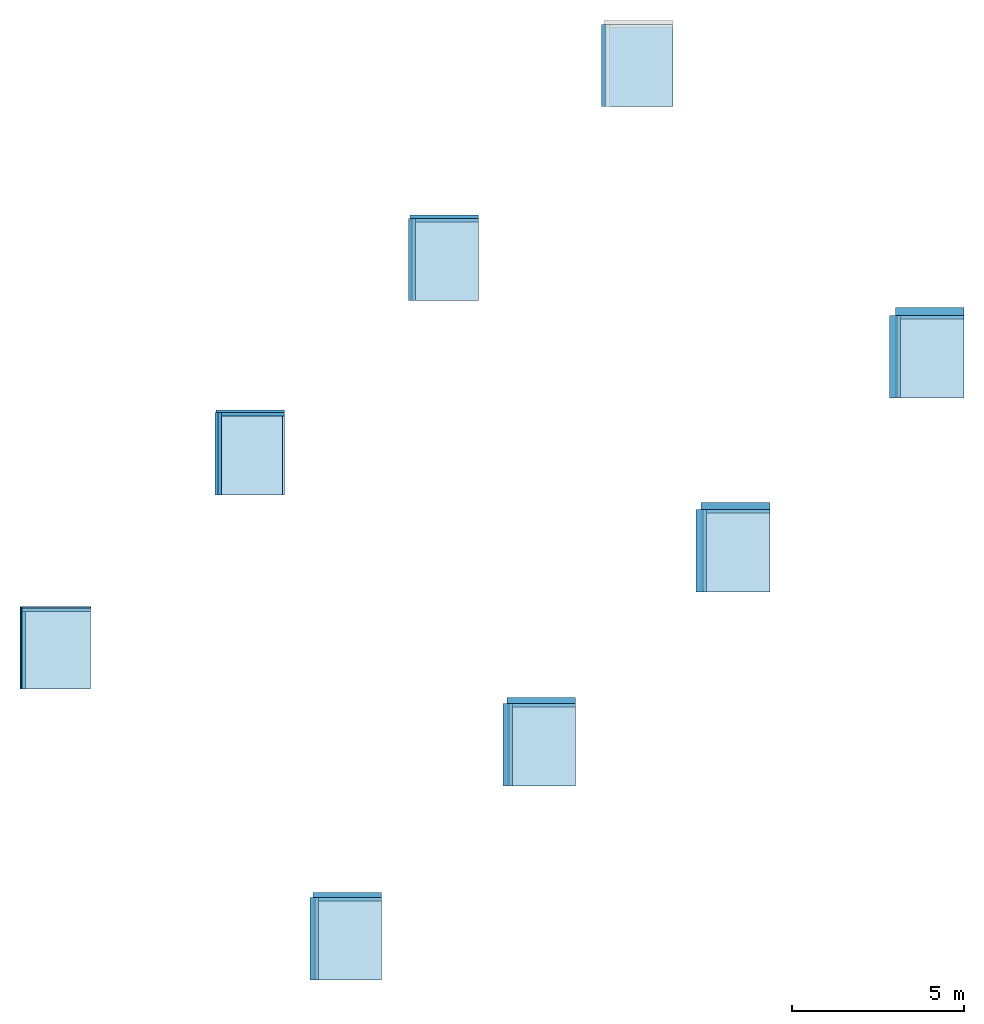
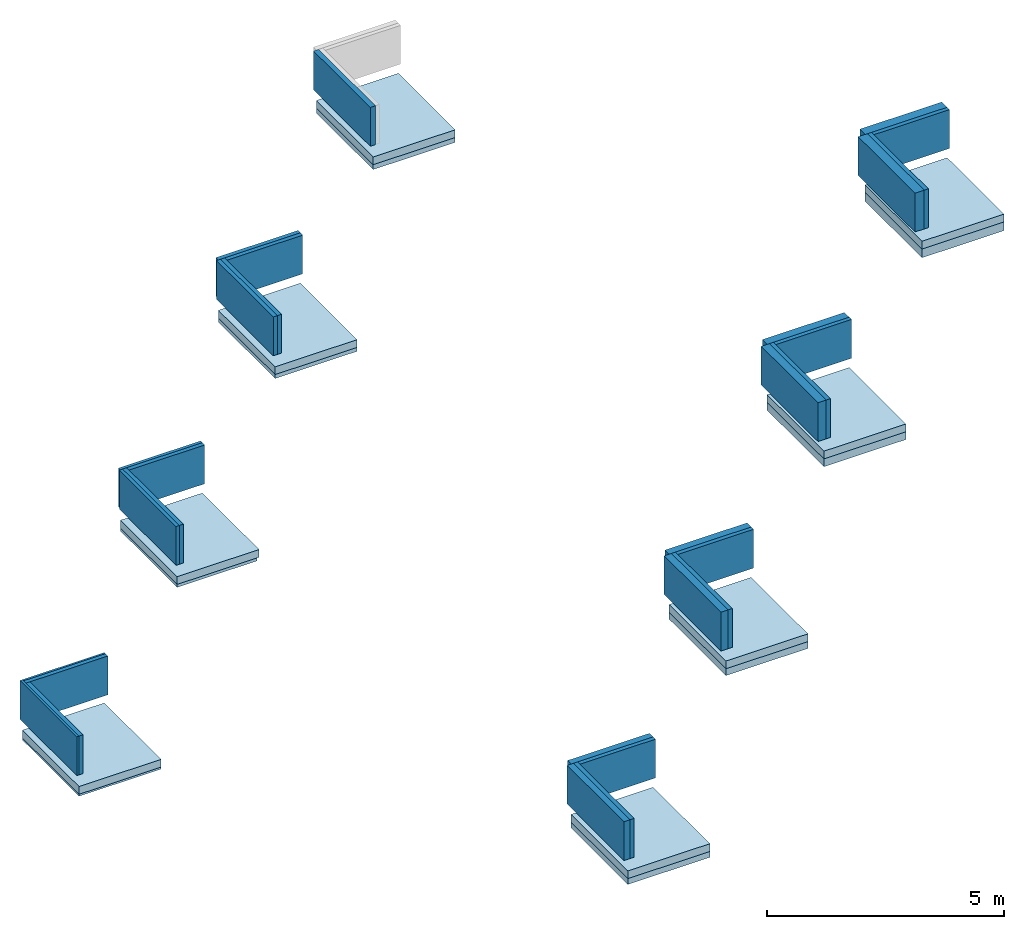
# One storey, part 1 of 2: 29 walls, 16 slabs.
"""IFC2X3 building model written with IfcOpenShell, lengths in millimetres."""

from ifc_helpers import new_model, entity, si_unit, converted_unit, derived_unit, direction, frame, frame_2d, origin, origin_2d_with_axis, place, context, subcontext, project, spatial, rectangle, extrude, material, layer, layer_set, layer_usage, type_object, element, save


model = new_model("IFC2X3")

# Units and contexts
model_context = context("Model", 3, precision=0.01, world=origin(), true_north=direction((6.12303176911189e-17, 1.0)))
context_of_model = context(None, 3, precision=0.01, world=origin(), true_north=direction((6.12303176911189e-17, 1.0)))
body_context = subcontext(model_context, "Body", "Model", "MODEL_VIEW")
ifc_project = project(units=[si_unit("LENGTHUNIT", "METRE", prefix="MILLI"), si_unit("AREAUNIT", "SQUARE_METRE"), si_unit("VOLUMEUNIT", "CUBIC_METRE"), converted_unit("PLANEANGLEUNIT", "DEGREE", entity("IfcRatioMeasure", 0.0174532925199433), si_unit("PLANEANGLEUNIT", "RADIAN"), dimensions=[0, 0, 0, 0, 0, 0, 0]), si_unit("MASSUNIT", "GRAM", prefix="KILO"), derived_unit("MASSDENSITYUNIT", [(si_unit("MASSUNIT", "GRAM", prefix="KILO"), 1), (si_unit("LENGTHUNIT", "METRE"), -3)]), derived_unit("MOMENTOFINERTIAUNIT", [(si_unit("LENGTHUNIT", "METRE"), 4)]), si_unit("TIMEUNIT", "SECOND"), si_unit("FREQUENCYUNIT", "HERTZ"), si_unit("THERMODYNAMICTEMPERATUREUNIT", "DEGREE_CELSIUS"), derived_unit("THERMALTRANSMITTANCEUNIT", [(si_unit("MASSUNIT", "GRAM", prefix="KILO"), 1), (si_unit("THERMODYNAMICTEMPERATUREUNIT", "KELVIN"), -1), (si_unit("TIMEUNIT", "SECOND"), -3)]), derived_unit("VOLUMETRICFLOWRATEUNIT", [(si_unit("LENGTHUNIT", "METRE"), 3), (si_unit("TIMEUNIT", "SECOND"), -1)]), si_unit("ELECTRICCURRENTUNIT", "AMPERE"), si_unit("ELECTRICVOLTAGEUNIT", "VOLT"), si_unit("POWERUNIT", "WATT"), si_unit("FORCEUNIT", "NEWTON", prefix="KILO"), si_unit("ILLUMINANCEUNIT", "LUX"), si_unit("LUMINOUSFLUXUNIT", "LUMEN"), si_unit("LUMINOUSINTENSITYUNIT", "CANDELA"), derived_unit("USERDEFINED", [(si_unit("MASSUNIT", "GRAM", prefix="KILO"), -1), (si_unit("LENGTHUNIT", "METRE"), -2), (si_unit("TIMEUNIT", "SECOND"), 3), (si_unit("LUMINOUSFLUXUNIT", "LUMEN"), 1)]), derived_unit("LINEARVELOCITYUNIT", [(si_unit("LENGTHUNIT", "METRE"), 1), (si_unit("TIMEUNIT", "SECOND"), -1)]), si_unit("PRESSUREUNIT", "PASCAL"), derived_unit("USERDEFINED", [(si_unit("LENGTHUNIT", "METRE"), -2), (si_unit("MASSUNIT", "GRAM", prefix="KILO"), 1), (si_unit("TIMEUNIT", "SECOND"), -2)]), derived_unit("LINEARFORCEUNIT", [(si_unit("MASSUNIT", "GRAM", prefix="KILO"), 1), (si_unit("LENGTHUNIT", "METRE"), 1), (si_unit("TIMEUNIT", "SECOND"), -2), (si_unit("LENGTHUNIT", "METRE"), -1)]), derived_unit("PLANARFORCEUNIT", [(si_unit("MASSUNIT", "GRAM", prefix="KILO"), 1), (si_unit("LENGTHUNIT", "METRE"), 1), (si_unit("TIMEUNIT", "SECOND"), -2), (si_unit("LENGTHUNIT", "METRE"), -2)])], contexts=[model_context, context_of_model])

# Site, building, storey
site_placement = place(None, origin())
site = spatial("IfcSite", under=ifc_project, at=site_placement, Name="Default", CompositionType="ELEMENT")
building_placement = place(site_placement, origin())
building = spatial("IfcBuilding", under=site, at=building_placement, CompositionType="ELEMENT")
storey_placement = place(building_placement, origin())
storey = spatial("IfcBuildingStorey", under=building, at=storey_placement, Name="00 begane grond", CompositionType="ELEMENT", Elevation=-2.77069864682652e-11)

# Slabs
ifc_material_1 = material(Name="Heraklith® I Tektalan A2 - Steenwol")
ifc_layer_1 = layer(ifc_material_1, 40.0)
ifc_material_2 = material(Name="Heraklith® I Tektalan A2 - Houtwollaag - 1000x600mm")
ifc_layer_2 = layer(ifc_material_2, 10.0)
ifc_layer_set_1 = layer_set([ifc_layer_1, ifc_layer_2], Name="Floor:NLRS_23_FL_Heraklith Tektalan A2 SmartTec 50x1000x600mm")
ifc_layer_usage_1 = layer_usage(ifc_layer_set_1, "AXIS3", "POSITIVE", 0.0)
slab_type_1 = type_object("IfcSlabType", Name="Floor:NLRS_23_FL_Heraklith Tektalan A2 SmartTec 50x1000x600mm", PredefinedType="FLOOR", material=ifc_layer_set_1)
slab_1_placement = place(storey_placement, origin())
element("IfcSlab", 1, at=slab_1_placement, inside=storey, type_object=slab_type_1, material=ifc_layer_usage_1, Name="Floor:NLRS_23_FL_Heraklith Tektalan A2 SmartTec 50x1000x600mm", ObjectType="Floor:NLRS_23_FL_Heraklith Tektalan A2 SmartTec 50x1000x600mm", PredefinedType="FLOOR", context=body_context, shape_type="SweptSolid", body=[
    extrude(rectangle(XDim=2400.0, YDim=2000.0, at=frame_2d((1.13686837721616e-13, 0.0), x_axis=(1.0, 0.0))), frame((1000.0, 1200.0, -500.0), z_axis=(0.0, 0.0, -1.0), x_axis=(0.0, 1.0, 0.0)), (0.0, 0.0, 1.0), 50.0),
])
ifc_layer_3 = layer(ifc_material_1, 65.0)
ifc_layer_4 = layer(ifc_material_2, 10.0)
ifc_layer_set_2 = layer_set([ifc_layer_3, ifc_layer_4], Name="Floor:NLRS_23_FL_Heraklith Tektalan A2 SmartTec 75x1000x600mm")
ifc_layer_usage_2 = layer_usage(ifc_layer_set_2, "AXIS3", "POSITIVE", 0.0)
slab_type_2 = type_object("IfcSlabType", Name="Floor:NLRS_23_FL_Heraklith Tektalan A2 SmartTec 75x1000x600mm", PredefinedType="FLOOR", material=ifc_layer_set_2)
slab_2_placement = place(storey_placement, origin())
element("IfcSlab", 2, at=slab_2_placement, inside=storey, type_object=slab_type_2, material=ifc_layer_usage_2, Name="Floor:NLRS_23_FL_Heraklith Tektalan A2 SmartTec 75x1000x600mm", ObjectType="Floor:NLRS_23_FL_Heraklith Tektalan A2 SmartTec 75x1000x600mm", PredefinedType="FLOOR", context=body_context, shape_type="SweptSolid", body=[
    extrude(rectangle(XDim=2400.0, YDim=1944.99999999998, at=frame_2d((-4.54747350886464e-13, 0.0), x_axis=(1.0, 0.0))), frame((6629.99191538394, 6856.85424949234, -500.0), z_axis=(0.0, 0.0, -1.0), x_axis=(0.0, 1.0, 0.0)), (0.0, 0.0, 1.0), 75.0),
])
ifc_layer_5 = layer(ifc_material_1, 90.0)
ifc_layer_6 = layer(ifc_material_2, 10.0)
ifc_layer_set_3 = layer_set([ifc_layer_5, ifc_layer_6], Name="Floor:NLRS_23_FL_Heraklith Tektalan A2 SmartTec 100x1000x600mm")
ifc_layer_usage_3 = layer_usage(ifc_layer_set_3, "AXIS3", "POSITIVE", 0.0)
slab_type_3 = type_object("IfcSlabType", Name="Floor:NLRS_23_FL_Heraklith Tektalan A2 SmartTec 100x1000x600mm", PredefinedType="FLOOR", material=ifc_layer_set_3)
slab_3_placement = place(storey_placement, origin())
element("IfcSlab", 3, at=slab_3_placement, inside=storey, type_object=slab_type_3, material=ifc_layer_usage_3, Name="Floor:NLRS_23_FL_Heraklith Tektalan A2 SmartTec 100x1000x600mm", ObjectType="Floor:NLRS_23_FL_Heraklith Tektalan A2 SmartTec 100x1000x600mm", PredefinedType="FLOOR", context=body_context, shape_type="SweptSolid", body=[
    extrude(rectangle(XDim=2400.0, YDim=2000.0, at=origin_2d_with_axis()), frame((12313.7084989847, 12513.7084989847, -500.0), z_axis=(0.0, 0.0, -1.0), x_axis=(0.0, 1.0, 0.0)), (0.0, 0.0, 1.0), 100.0),
])
ifc_layer_7 = layer(ifc_material_1, 115.0)
ifc_layer_8 = layer(ifc_material_2, 10.0)
ifc_layer_set_4 = layer_set([ifc_layer_7, ifc_layer_8], Name="Floor:NLRS_23_FL_Heraklith Tektalan A2 SmartTec 125x1000x600mm")
ifc_layer_usage_4 = layer_usage(ifc_layer_set_4, "AXIS3", "POSITIVE", 0.0)
slab_type_4 = type_object("IfcSlabType", Name="Floor:NLRS_23_FL_Heraklith Tektalan A2 SmartTec 125x1000x600mm", PredefinedType="FLOOR", material=ifc_layer_set_4)
slab_4_placement = place(storey_placement, origin())
element("IfcSlab", 4, at=slab_4_placement, inside=storey, type_object=slab_type_4, material=ifc_layer_usage_4, Name="Floor:NLRS_23_FL_Heraklith Tektalan A2 SmartTec 125x1000x600mm", ObjectType="Floor:NLRS_23_FL_Heraklith Tektalan A2 SmartTec 125x1000x600mm", PredefinedType="FLOOR", context=body_context, shape_type="SweptSolid", body=[
    extrude(rectangle(XDim=2400.0, YDim=2000.0, at=frame_2d((0.0, -1.08002495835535e-12), x_axis=(1.0, 0.0))), frame((17970.5627484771, 18170.5627484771, -500.0), z_axis=(0.0, 0.0, -1.0), x_axis=(0.0, 1.0, 0.0)), (0.0, 0.0, 1.0), 125.0),
])
ifc_layer_9 = layer(ifc_material_1, 140.0)
ifc_layer_10 = layer(ifc_material_2, 10.0)
ifc_layer_set_5 = layer_set([ifc_layer_9, ifc_layer_10], Name="Floor:NLRS_23_FL_Heraklith Tektalan A2 SmartTec 150x1000x600mm")
ifc_layer_usage_5 = layer_usage(ifc_layer_set_5, "AXIS3", "POSITIVE", 0.0)
slab_type_5 = type_object("IfcSlabType", Name="Floor:NLRS_23_FL_Heraklith Tektalan A2 SmartTec 150x1000x600mm", PredefinedType="FLOOR", material=ifc_layer_set_5)
slab_5_placement = place(storey_placement, origin())
element("IfcSlab", 5, at=slab_5_placement, inside=storey, type_object=slab_type_5, material=ifc_layer_usage_5, Name="Floor:NLRS_23_FL_Heraklith Tektalan A2 SmartTec 150x1000x600mm", ObjectType="Floor:NLRS_23_FL_Heraklith Tektalan A2 SmartTec 150x1000x600mm", PredefinedType="FLOOR", context=body_context, shape_type="SweptSolid", body=[
    extrude(rectangle(XDim=2400.0, YDim=2000.0, at=frame_2d((0.0, 1.08002495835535e-12), x_axis=(1.0, 0.0))), frame((9485.28137423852, -7285.28137423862, -500.0), z_axis=(0.0, 0.0, -1.0), x_axis=(0.0, 1.0, 0.0)), (0.0, 0.0, 1.0), 150.0),
])
ifc_layer_11 = layer(ifc_material_1, 165.0)
ifc_layer_12 = layer(ifc_material_2, 10.0)
ifc_layer_set_6 = layer_set([ifc_layer_11, ifc_layer_12], Name="Floor:NLRS_23_FL_Heraklith Tektalan A2 SmartTec 175x1000x600mm")
ifc_layer_usage_6 = layer_usage(ifc_layer_set_6, "AXIS3", "POSITIVE", 0.0)
slab_type_6 = type_object("IfcSlabType", Name="Floor:NLRS_23_FL_Heraklith Tektalan A2 SmartTec 175x1000x600mm", PredefinedType="FLOOR", material=ifc_layer_set_6)
slab_6_placement = place(storey_placement, origin())
element("IfcSlab", 6, at=slab_6_placement, inside=storey, type_object=slab_type_6, material=ifc_layer_usage_6, Name="Floor:NLRS_23_FL_Heraklith Tektalan A2 SmartTec 175x1000x600mm", ObjectType="Floor:NLRS_23_FL_Heraklith Tektalan A2 SmartTec 175x1000x600mm", PredefinedType="FLOOR", context=body_context, shape_type="SweptSolid", body=[
    extrude(rectangle(XDim=2400.0, YDim=2000.0, at=frame_2d((-1.13686837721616e-13, 2.1600499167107e-12), x_axis=(1.0, 0.0))), frame((15142.1356237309, -1628.42712474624, -500.0), z_axis=(0.0, 0.0, -1.0), x_axis=(0.0, 1.0, 0.0)), (0.0, 0.0, 1.0), 175.0),
])
ifc_layer_13 = layer(ifc_material_1, 190.0)
ifc_layer_14 = layer(ifc_material_2, 10.0)
ifc_layer_set_7 = layer_set([ifc_layer_13, ifc_layer_14], Name="Floor:NLRS_23_FL_Heraklith Tektalan A2 SmartTec 200x1000x600mm")
ifc_layer_usage_7 = layer_usage(ifc_layer_set_7, "AXIS3", "POSITIVE", 0.0)
slab_type_7 = type_object("IfcSlabType", Name="Floor:NLRS_23_FL_Heraklith Tektalan A2 SmartTec 200x1000x600mm", PredefinedType="FLOOR", material=ifc_layer_set_7)
slab_7_placement = place(storey_placement, origin())
element("IfcSlab", 7, at=slab_7_placement, inside=storey, type_object=slab_type_7, material=ifc_layer_usage_7, Name="Floor:NLRS_23_FL_Heraklith Tektalan A2 SmartTec 200x1000x600mm", ObjectType="Floor:NLRS_23_FL_Heraklith Tektalan A2 SmartTec 200x1000x600mm", PredefinedType="FLOOR", context=body_context, shape_type="SweptSolid", body=[
    extrude(rectangle(XDim=2400.0, YDim=2000.0, at=frame_2d((0.0, -2.1600499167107e-12), x_axis=(1.0, 0.0))), frame((20798.9898732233, 4028.42712474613, -500.0), z_axis=(0.0, 0.0, -1.0), x_axis=(0.0, 1.0, 0.0)), (0.0, 0.0, 1.0), 200.0),
])
ifc_layer_15 = layer(ifc_material_1, 215.0)
ifc_layer_16 = layer(ifc_material_2, 10.0)
ifc_layer_set_8 = layer_set([ifc_layer_15, ifc_layer_16], Name="Floor:NLRS_23_FL_Heraklith Tektalan A2 SmartTec 225x1000x600mm")
ifc_layer_usage_8 = layer_usage(ifc_layer_set_8, "AXIS3", "POSITIVE", 0.0)
slab_type_8 = type_object("IfcSlabType", Name="Floor:NLRS_23_FL_Heraklith Tektalan A2 SmartTec 225x1000x600mm", PredefinedType="FLOOR", material=ifc_layer_set_8)
slab_8_placement = place(storey_placement, origin())
element("IfcSlab", 8, at=slab_8_placement, inside=storey, type_object=slab_type_8, material=ifc_layer_usage_8, Name="Floor:NLRS_23_FL_Heraklith Tektalan A2 SmartTec 225x1000x600mm", ObjectType="Floor:NLRS_23_FL_Heraklith Tektalan A2 SmartTec 225x1000x600mm", PredefinedType="FLOOR", context=body_context, shape_type="SweptSolid", body=[
    extrude(rectangle(XDim=2400.0, YDim=2000.0, at=frame_2d((0.0, -2.1600499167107e-12), x_axis=(1.0, 0.0))), frame((26455.8441227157, 9685.28137423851, -500.0), z_axis=(0.0, 0.0, -1.0), x_axis=(0.0, 1.0, 0.0)), (0.0, 0.0, 1.0), 225.0),
])
ifc_material_3 = material(Name="Concrete, Precast Panels")
ifc_layer_17 = layer(ifc_material_3, 200.0)
ifc_layer_set_9 = layer_set([ifc_layer_17], Name="Floor:Generic 200mm")
ifc_layer_usage_9 = layer_usage(ifc_layer_set_9, "AXIS3", "POSITIVE", 0.0)
slab_type_9 = type_object("IfcSlabType", Name="Floor:Generic 200mm", PredefinedType="FLOOR", material=ifc_layer_set_9)
slab_9_placement = place(storey_placement, origin())
element("IfcSlab", 9, at=slab_9_placement, inside=storey, type_object=slab_type_9, material=ifc_layer_usage_9, Name="Floor:Generic 200mm", ObjectType="Floor:Generic 200mm", PredefinedType="FLOOR", context=body_context, shape_type="SweptSolid", body=[
    extrude(rectangle(XDim=2400.0, YDim=2000.0, at=origin_2d_with_axis()), frame((1000.0, 1200.0, -300.0), z_axis=(0.0, 0.0, -1.0), x_axis=(0.0, 1.0, 0.0)), (0.0, 0.0, 1.0), 200.0),
])
ifc_layer_usage_10 = layer_usage(ifc_layer_set_9, "AXIS3", "POSITIVE", 0.0)
slab_type_10 = type_object("IfcSlabType", Name="Floor:Generic 200mm", PredefinedType="FLOOR", material=ifc_layer_set_9)
slab_10_placement = place(storey_placement, origin())
element("IfcSlab", 10, at=slab_10_placement, inside=storey, type_object=slab_type_10, material=ifc_layer_usage_10, Name="Floor:Generic 200mm", ObjectType="Floor:Generic 200mm", PredefinedType="FLOOR", context=body_context, shape_type="SweptSolid", body=[
    extrude(rectangle(XDim=2400.0, YDim=2000.0, at=origin_2d_with_axis()), frame((6656.85424949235, 6856.85424949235, -300.0), z_axis=(0.0, 0.0, -1.0), x_axis=(0.0, 1.0, 0.0)), (0.0, 0.0, 1.0), 200.0),
])
ifc_layer_usage_11 = layer_usage(ifc_layer_set_9, "AXIS3", "POSITIVE", 0.0)
slab_type_11 = type_object("IfcSlabType", Name="Floor:Generic 200mm", PredefinedType="FLOOR", material=ifc_layer_set_9)
slab_11_placement = place(storey_placement, origin())
element("IfcSlab", 11, at=slab_11_placement, inside=storey, type_object=slab_type_11, material=ifc_layer_usage_11, Name="Floor:Generic 200mm", ObjectType="Floor:Generic 200mm", PredefinedType="FLOOR", context=body_context, shape_type="SweptSolid", body=[
    extrude(rectangle(XDim=2400.0, YDim=2000.0, at=origin_2d_with_axis()), frame((12313.7084989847, 12513.7084989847, -300.0), z_axis=(0.0, 0.0, -1.0), x_axis=(0.0, 1.0, 0.0)), (0.0, 0.0, 1.0), 200.0),
])
ifc_layer_usage_12 = layer_usage(ifc_layer_set_9, "AXIS3", "POSITIVE", 0.0)
slab_type_12 = type_object("IfcSlabType", Name="Floor:Generic 200mm", PredefinedType="FLOOR", material=ifc_layer_set_9)
slab_12_placement = place(storey_placement, origin())
element("IfcSlab", 12, at=slab_12_placement, inside=storey, type_object=slab_type_12, material=ifc_layer_usage_12, Name="Floor:Generic 200mm", ObjectType="Floor:Generic 200mm", PredefinedType="FLOOR", context=body_context, shape_type="SweptSolid", body=[
    extrude(rectangle(XDim=2400.0, YDim=2000.0, at=origin_2d_with_axis()), frame((17970.5627484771, 18170.5627484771, -300.0), z_axis=(0.0, 0.0, -1.0), x_axis=(0.0, 1.0, 0.0)), (0.0, 0.0, 1.0), 200.0),
])
ifc_layer_usage_13 = layer_usage(ifc_layer_set_9, "AXIS3", "POSITIVE", 0.0)
slab_type_13 = type_object("IfcSlabType", Name="Floor:Generic 200mm", PredefinedType="FLOOR", material=ifc_layer_set_9)
slab_13_placement = place(storey_placement, origin())
element("IfcSlab", 13, at=slab_13_placement, inside=storey, type_object=slab_type_13, material=ifc_layer_usage_13, Name="Floor:Generic 200mm", ObjectType="Floor:Generic 200mm", PredefinedType="FLOOR", context=body_context, shape_type="SweptSolid", body=[
    extrude(rectangle(XDim=2400.0, YDim=2000.0, at=frame_2d((0.0, -2.1600499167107e-12), x_axis=(1.0, 0.0))), frame((26455.8441227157, 9685.28137423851, -300.0), z_axis=(0.0, 0.0, -1.0), x_axis=(0.0, 1.0, 0.0)), (0.0, 0.0, 1.0), 200.0),
])
ifc_layer_usage_14 = layer_usage(ifc_layer_set_9, "AXIS3", "POSITIVE", 0.0)
slab_type_14 = type_object("IfcSlabType", Name="Floor:Generic 200mm", PredefinedType="FLOOR", material=ifc_layer_set_9)
slab_14_placement = place(storey_placement, origin())
element("IfcSlab", 14, at=slab_14_placement, inside=storey, type_object=slab_type_14, material=ifc_layer_usage_14, Name="Floor:Generic 200mm", ObjectType="Floor:Generic 200mm", PredefinedType="FLOOR", context=body_context, shape_type="SweptSolid", body=[
    extrude(rectangle(XDim=2400.0, YDim=2000.0, at=frame_2d((0.0, -2.1600499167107e-12), x_axis=(1.0, 0.0))), frame((20798.9898732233, 4028.42712474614, -300.0), z_axis=(0.0, 0.0, -1.0), x_axis=(0.0, 1.0, 0.0)), (0.0, 0.0, 1.0), 200.0),
])
ifc_layer_usage_15 = layer_usage(ifc_layer_set_9, "AXIS3", "POSITIVE", 0.0)
slab_type_15 = type_object("IfcSlabType", Name="Floor:Generic 200mm", PredefinedType="FLOOR", material=ifc_layer_set_9)
slab_15_placement = place(storey_placement, origin())
element("IfcSlab", 15, at=slab_15_placement, inside=storey, type_object=slab_type_15, material=ifc_layer_usage_15, Name="Floor:Generic 200mm", ObjectType="Floor:Generic 200mm", PredefinedType="FLOOR", context=body_context, shape_type="SweptSolid", body=[
    extrude(rectangle(XDim=2400.0, YDim=2000.0, at=frame_2d((0.0, 2.1600499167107e-12), x_axis=(1.0, 0.0))), frame((15142.1356237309, -1628.42712474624, -300.0), z_axis=(0.0, 0.0, -1.0), x_axis=(0.0, 1.0, 0.0)), (0.0, 0.0, 1.0), 200.0),
])
ifc_layer_usage_16 = layer_usage(ifc_layer_set_9, "AXIS3", "POSITIVE", 0.0)
slab_type_16 = type_object("IfcSlabType", Name="Floor:Generic 200mm", PredefinedType="FLOOR", material=ifc_layer_set_9)
slab_16_placement = place(storey_placement, origin())
element("IfcSlab", 16, at=slab_16_placement, inside=storey, type_object=slab_type_16, material=ifc_layer_usage_16, Name="Floor:Generic 200mm", ObjectType="Floor:Generic 200mm", PredefinedType="FLOOR", context=body_context, shape_type="SweptSolid", body=[
    extrude(rectangle(XDim=2400.0, YDim=2000.0, at=origin_2d_with_axis()), frame((9485.28137423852, -7285.28137423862, -300.0), z_axis=(0.0, 0.0, -1.0), x_axis=(0.0, 1.0, 0.0)), (0.0, 0.0, 1.0), 200.0),
])

# Walls
ifc_layer_18 = layer(ifc_material_1, 40.0)
ifc_layer_19 = layer(ifc_material_2, 10.0)
ifc_layer_set_10 = layer_set([ifc_layer_18, ifc_layer_19], Name="Basic Wall:NLRS_41_WA_Heraklith Tektalan A2 SmartTec 50x1000x600mm")
ifc_layer_usage_17 = layer_usage(ifc_layer_set_10, "AXIS2", "POSITIVE", -25.0)
wall_type_1 = type_object("IfcWallType", Name="Basic Wall:NLRS_41_WA_Heraklith Tektalan A2 SmartTec 50x1000x600mm", PredefinedType="STANDARD", material=ifc_layer_set_10)
wall_1_placement = place(storey_placement, frame((0.0, 2375.0, 0.0)))
element("IfcWallStandardCase", 17, at=wall_1_placement, inside=storey, type_object=wall_type_1, material=ifc_layer_usage_17, Name="Basic Wall:NLRS_41_WA_Heraklith Tektalan A2 SmartTec 50x1000x600mm", ObjectType="Basic Wall:NLRS_41_WA_Heraklith Tektalan A2 SmartTec 50x1000x600mm", context=body_context, shape_type="SweptSolid", body=[
    extrude(rectangle(XDim=1999.99999999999, YDim=50.0, at=frame_2d((999.999999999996, 0.0), x_axis=(-1.0, 0.0))), origin(), (0.0, 0.0, 1.0), 1000.00000000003),
])
ifc_layer_20 = layer(ifc_material_1, 40.0)
ifc_layer_21 = layer(ifc_material_2, 15.0)
ifc_layer_set_11 = layer_set([ifc_layer_20, ifc_layer_21], Name="Basic Wall:NLRS_42_WA_Heraklith Tektalan A2 SmartTec 50x1000x600mm")
ifc_layer_usage_18 = layer_usage(ifc_layer_set_11, "AXIS2", "POSITIVE", -27.5)
wall_type_2 = type_object("IfcWallType", Name="Basic Wall:NLRS_42_WA_Heraklith Tektalan A2 SmartTec 50x1000x600mm", PredefinedType="STANDARD", material=ifc_layer_set_11)
wall_2_placement = place(storey_placement, frame((-27.500000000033, 0.0, 0.0), z_axis=(0.0, 0.0, 1.0), x_axis=(0.0, 1.0, 0.0)))
element("IfcWallStandardCase", 18, at=wall_2_placement, inside=storey, type_object=wall_type_2, material=ifc_layer_usage_18, Name="Basic Wall:NLRS_42_WA_Heraklith Tektalan A2 SmartTec 50x1000x600mm", ObjectType="Basic Wall:NLRS_42_WA_Heraklith Tektalan A2 SmartTec 50x1000x600mm", context=body_context, shape_type="SweptSolid", body=[
    extrude(rectangle(XDim=2400.0, YDim=55.0, at=frame_2d((1200.0, 3.5527136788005e-15), x_axis=(-1.0, 0.0))), origin(), (0.0, 0.0, 1.0), 1000.00000000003),
])
ifc_layer_22 = layer(ifc_material_1, 65.0)
ifc_layer_23 = layer(ifc_material_2, 10.0)
ifc_layer_set_12 = layer_set([ifc_layer_22, ifc_layer_23], Name="Basic Wall:NLRS_41_WA_Heraklith Tektalan A2 SmartTec 75x1000x600mm")
ifc_layer_usage_19 = layer_usage(ifc_layer_set_12, "AXIS2", "POSITIVE", -37.5)
wall_type_3 = type_object("IfcWallType", Name="Basic Wall:NLRS_41_WA_Heraklith Tektalan A2 SmartTec 75x1000x600mm", PredefinedType="STANDARD", material=ifc_layer_set_12)
wall_3_placement = place(storey_placement, frame((5656.85424949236, 8094.35424949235, 0.0)))
element("IfcWallStandardCase", 19, at=wall_3_placement, inside=storey, type_object=wall_type_3, material=ifc_layer_usage_19, Name="Basic Wall:NLRS_41_WA_Heraklith Tektalan A2 SmartTec 75x1000x600mm", ObjectType="Basic Wall:NLRS_41_WA_Heraklith Tektalan A2 SmartTec 75x1000x600mm", context=body_context, shape_type="SweptSolid", body=[
    extrude(rectangle(XDim=1999.99999999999, YDim=75.0000000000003, at=frame_2d((999.999999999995, 1.35003119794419e-13), x_axis=(-1.0, 0.0))), origin(), (0.0, 0.0, 1.0), 1000.00000000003),
])
ifc_layer_24 = layer(ifc_material_1, 65.0)
ifc_layer_25 = layer(ifc_material_2, 15.0)
ifc_layer_set_13 = layer_set([ifc_layer_24, ifc_layer_25], Name="Basic Wall:NLRS_42_WA_Heraklith Tektalan A2 SmartTec 75x1000x600mm")
ifc_layer_usage_20 = layer_usage(ifc_layer_set_13, "AXIS2", "POSITIVE", -40.0)
wall_type_4 = type_object("IfcWallType", Name="Basic Wall:NLRS_42_WA_Heraklith Tektalan A2 SmartTec 75x1000x600mm", PredefinedType="STANDARD", material=ifc_layer_set_13)
wall_4_placement = place(storey_placement, frame((5671.85424949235, 5656.85424949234, 0.0), z_axis=(0.0, 0.0, 1.0), x_axis=(0.0, 1.0, 0.0)))
element("IfcWallStandardCase", 20, at=wall_4_placement, inside=storey, type_object=wall_type_4, material=ifc_layer_usage_20, Name="Basic Wall:NLRS_42_WA_Heraklith Tektalan A2 SmartTec 75x1000x600mm", ObjectType="Basic Wall:NLRS_42_WA_Heraklith Tektalan A2 SmartTec 75x1000x600mm", context=body_context, shape_type="SweptSolid", body=[
    extrude(rectangle(XDim=2400.0, YDim=79.9999999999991, at=frame_2d((1200.0, -2.1316282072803e-13), x_axis=(-1.0, 0.0))), origin(), (0.0, 0.0, 1.0), 1000.00000000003),
])
ifc_layer_26 = layer(ifc_material_1, 90.0)
ifc_layer_27 = layer(ifc_material_2, 10.0)
ifc_layer_set_14 = layer_set([ifc_layer_26, ifc_layer_27], Name="Basic Wall:NLRS_41_WA_Heraklith Tektalan A2 SmartTec 100x1000x600mm")
ifc_layer_usage_21 = layer_usage(ifc_layer_set_14, "AXIS2", "POSITIVE", -50.0)
wall_type_5 = type_object("IfcWallType", Name="Basic Wall:NLRS_41_WA_Heraklith Tektalan A2 SmartTec 100x1000x600mm", PredefinedType="STANDARD", material=ifc_layer_set_14)
wall_5_placement = place(storey_placement, frame((11313.7084989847, 13763.7084989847, 0.0)))
element("IfcWallStandardCase", 21, at=wall_5_placement, inside=storey, type_object=wall_type_5, material=ifc_layer_usage_21, Name="Basic Wall:NLRS_41_WA_Heraklith Tektalan A2 SmartTec 100x1000x600mm", ObjectType="Basic Wall:NLRS_41_WA_Heraklith Tektalan A2 SmartTec 100x1000x600mm", context=body_context, shape_type="SweptSolid", body=[
    extrude(rectangle(XDim=1999.99999999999, YDim=99.9999999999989, at=frame_2d((999.999999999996, 6.78568312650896e-13), x_axis=(-1.0, 0.0))), origin(), (0.0, 0.0, 1.0), 1000.00000000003),
])
ifc_layer_28 = layer(ifc_material_1, 90.0)
ifc_layer_29 = layer(ifc_material_2, 10.0)
ifc_layer_set_15 = layer_set([ifc_layer_28, ifc_layer_29], Name="Basic Wall:NLRS_42_WA_Heraklith Tektalan A2 SmartTec 100x1000x600mm")
ifc_layer_usage_22 = layer_usage(ifc_layer_set_15, "AXIS2", "POSITIVE", -50.0)
wall_type_6 = type_object("IfcWallType", Name="Basic Wall:NLRS_42_WA_Heraklith Tektalan A2 SmartTec 100x1000x600mm", PredefinedType="STANDARD", material=ifc_layer_set_15)
wall_6_placement = place(storey_placement, frame((11318.7084989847, 11313.7084989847, 0.0), z_axis=(0.0, 0.0, 1.0), x_axis=(0.0, 1.0, 0.0)))
element("IfcWallStandardCase", 22, at=wall_6_placement, inside=storey, type_object=wall_type_6, material=ifc_layer_usage_22, Name="Basic Wall:NLRS_42_WA_Heraklith Tektalan A2 SmartTec 100x1000x600mm", ObjectType="Basic Wall:NLRS_42_WA_Heraklith Tektalan A2 SmartTec 100x1000x600mm", context=body_context, shape_type="SweptSolid", body=[
    extrude(rectangle(XDim=2400.0, YDim=99.9999999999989, at=frame_2d((1200.0, -2.1316282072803e-13), x_axis=(-1.0, 0.0))), origin(), (0.0, 0.0, 1.0), 1000.00000000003),
])
ifc_layer_30 = layer(ifc_material_1, 115.0)
ifc_layer_31 = layer(ifc_material_2, 10.0)
ifc_layer_set_16 = layer_set([ifc_layer_30, ifc_layer_31], Name="Basic Wall:NLRS_42_WA_Heraklith Tektalan A2 SmartTec 125x1000x600mm")
ifc_layer_usage_23 = layer_usage(ifc_layer_set_16, "AXIS2", "POSITIVE", -62.5)
wall_type_7 = type_object("IfcWallType", Name="Basic Wall:NLRS_42_WA_Heraklith Tektalan A2 SmartTec 125x1000x600mm", PredefinedType="STANDARD", material=ifc_layer_set_16)
wall_7_placement = place(storey_placement, frame((16963.0627484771, 16970.5627484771, 0.0), z_axis=(0.0, 0.0, 1.0), x_axis=(0.0, 1.0, 0.0)))
element("IfcWallStandardCase", 23, at=wall_7_placement, inside=storey, type_object=wall_type_7, material=ifc_layer_usage_23, Name="Basic Wall:NLRS_42_WA_Heraklith Tektalan A2 SmartTec 125x1000x600mm", ObjectType="Basic Wall:NLRS_42_WA_Heraklith Tektalan A2 SmartTec 125x1000x600mm", context=body_context, shape_type="SweptSolid", body=[
    extrude(rectangle(XDim=2400.0, YDim=125.000000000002, at=frame_2d((1200.0, -2.16715534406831e-13), x_axis=(-1.0, 0.0))), origin(), (0.0, 0.0, 1.0), 1000.00000000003),
])
ifc_layer_32 = layer(ifc_material_1, 140.0)
ifc_layer_33 = layer(ifc_material_2, 10.0)
ifc_layer_set_17 = layer_set([ifc_layer_32, ifc_layer_33], Name="Basic Wall:NLRS_41_WA_Heraklith Tektalan A2 SmartTec 150x1000x600mm")
ifc_layer_usage_24 = layer_usage(ifc_layer_set_17, "AXIS2", "POSITIVE", -75.0)
wall_type_8 = type_object("IfcWallType", Name="Basic Wall:NLRS_41_WA_Heraklith Tektalan A2 SmartTec 150x1000x600mm", PredefinedType="STANDARD", material=ifc_layer_set_17)
wall_8_placement = place(storey_placement, frame((8485.28137423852, -6010.28137423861, 0.0)))
element("IfcWallStandardCase", 24, at=wall_8_placement, inside=storey, type_object=wall_type_8, material=ifc_layer_usage_24, Name="Basic Wall:NLRS_41_WA_Heraklith Tektalan A2 SmartTec 150x1000x600mm", ObjectType="Basic Wall:NLRS_41_WA_Heraklith Tektalan A2 SmartTec 150x1000x600mm", context=body_context, shape_type="SweptSolid", body=[
    extrude(rectangle(XDim=1999.99999999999, YDim=150.000000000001, at=frame_2d((999.999999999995, 1.35003119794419e-13), x_axis=(-1.0, 0.0))), origin(), (0.0, 0.0, 1.0), 1000.00000000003),
])
ifc_layer_34 = layer(ifc_material_1, 140.0)
ifc_layer_35 = layer(ifc_material_2, 10.0)
ifc_layer_set_18 = layer_set([ifc_layer_34, ifc_layer_35], Name="Basic Wall:NLRS_42_WA_Heraklith Tektalan A2 SmartTec 150x1000x600mm")
ifc_layer_usage_25 = layer_usage(ifc_layer_set_18, "AXIS2", "POSITIVE", -75.0)
wall_type_9 = type_object("IfcWallType", Name="Basic Wall:NLRS_42_WA_Heraklith Tektalan A2 SmartTec 150x1000x600mm", PredefinedType="STANDARD", material=ifc_layer_set_18)
wall_9_placement = place(storey_placement, frame((8465.28137423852, -8485.28137423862, 0.0), z_axis=(0.0, 0.0, 1.0), x_axis=(0.0, 1.0, 0.0)))
element("IfcWallStandardCase", 25, at=wall_9_placement, inside=storey, type_object=wall_type_9, material=ifc_layer_usage_25, Name="Basic Wall:NLRS_42_WA_Heraklith Tektalan A2 SmartTec 150x1000x600mm", ObjectType="Basic Wall:NLRS_42_WA_Heraklith Tektalan A2 SmartTec 150x1000x600mm", context=body_context, shape_type="SweptSolid", body=[
    extrude(rectangle(XDim=2400.0, YDim=150.000000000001, at=frame_2d((1200.0, -2.1316282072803e-13), x_axis=(-1.0, 0.0))), origin(), (0.0, 0.0, 1.0), 1000.00000000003),
])
ifc_layer_36 = layer(ifc_material_1, 165.0)
ifc_layer_37 = layer(ifc_material_2, 10.0)
ifc_layer_set_19 = layer_set([ifc_layer_36, ifc_layer_37], Name="Basic Wall:NLRS_41_WA_Heraklith Tektalan A2 SmartTec 175x1000x600mm")
ifc_layer_usage_26 = layer_usage(ifc_layer_set_19, "AXIS2", "POSITIVE", -87.5)
wall_type_10 = type_object("IfcWallType", Name="Basic Wall:NLRS_41_WA_Heraklith Tektalan A2 SmartTec 175x1000x600mm", PredefinedType="STANDARD", material=ifc_layer_set_19)
wall_10_placement = place(storey_placement, frame((14142.1356237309, -340.927124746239, 0.0)))
element("IfcWallStandardCase", 26, at=wall_10_placement, inside=storey, type_object=wall_type_10, material=ifc_layer_usage_26, Name="Basic Wall:NLRS_41_WA_Heraklith Tektalan A2 SmartTec 175x1000x600mm", ObjectType="Basic Wall:NLRS_41_WA_Heraklith Tektalan A2 SmartTec 175x1000x600mm", context=body_context, shape_type="SweptSolid", body=[
    extrude(rectangle(XDim=1999.99999999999, YDim=175.0, at=frame_2d((999.999999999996, 0.0), x_axis=(-1.0, 0.0))), origin(), (0.0, 0.0, 1.0), 1000.00000000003),
])
ifc_layer_38 = layer(ifc_material_1, 165.0)
ifc_layer_39 = layer(ifc_material_2, 10.0)
ifc_layer_set_20 = layer_set([ifc_layer_38, ifc_layer_39], Name="Basic Wall:NLRS_42_WA_Heraklith Tektalan A2 SmartTec 175x1000x600mm")
ifc_layer_usage_27 = layer_usage(ifc_layer_set_20, "AXIS2", "POSITIVE", -87.5)
wall_type_11 = type_object("IfcWallType", Name="Basic Wall:NLRS_42_WA_Heraklith Tektalan A2 SmartTec 175x1000x600mm", PredefinedType="STANDARD", material=ifc_layer_set_20)
wall_11_placement = place(storey_placement, frame((14109.6356237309, -2828.42712474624, 0.0), z_axis=(0.0, 0.0, 1.0), x_axis=(0.0, 1.0, 0.0)))
element("IfcWallStandardCase", 27, at=wall_11_placement, inside=storey, type_object=wall_type_11, material=ifc_layer_usage_27, Name="Basic Wall:NLRS_42_WA_Heraklith Tektalan A2 SmartTec 175x1000x600mm", ObjectType="Basic Wall:NLRS_42_WA_Heraklith Tektalan A2 SmartTec 175x1000x600mm", context=body_context, shape_type="SweptSolid", body=[
    extrude(rectangle(XDim=2400.0, YDim=174.999999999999, at=frame_2d((1200.0, -2.1316282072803e-13), x_axis=(-1.0, 0.0))), origin(), (0.0, 0.0, 1.0), 1000.00000000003),
])
ifc_layer_40 = layer(ifc_material_1, 190.0)
ifc_layer_41 = layer(ifc_material_2, 10.0)
ifc_layer_set_21 = layer_set([ifc_layer_40, ifc_layer_41], Name="Basic Wall:NLRS_41_WA_Heraklith Tektalan A2 SmartTec 200x1000x600mm")
ifc_layer_usage_28 = layer_usage(ifc_layer_set_21, "AXIS2", "POSITIVE", -100.0)
wall_type_12 = type_object("IfcWallType", Name="Basic Wall:NLRS_41_WA_Heraklith Tektalan A2 SmartTec 200x1000x600mm", PredefinedType="STANDARD", material=ifc_layer_set_21)
wall_12_placement = place(storey_placement, frame((19798.9898732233, 5328.42712474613, 0.0)))
element("IfcWallStandardCase", 28, at=wall_12_placement, inside=storey, type_object=wall_type_12, material=ifc_layer_usage_28, Name="Basic Wall:NLRS_41_WA_Heraklith Tektalan A2 SmartTec 200x1000x600mm", ObjectType="Basic Wall:NLRS_41_WA_Heraklith Tektalan A2 SmartTec 200x1000x600mm", context=body_context, shape_type="SweptSolid", body=[
    extrude(rectangle(XDim=1999.99999999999, YDim=200.0, at=frame_2d((999.999999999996, 1.4210854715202e-13), x_axis=(-1.0, 0.0))), origin(), (0.0, 0.0, 1.0), 1000.00000000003),
])
ifc_layer_42 = layer(ifc_material_1, 190.0)
ifc_layer_43 = layer(ifc_material_2, 10.0)
ifc_layer_set_22 = layer_set([ifc_layer_42, ifc_layer_43], Name="Basic Wall:NLRS_42_WA_Heraklith Tektalan A2 SmartTec 200x1000x600mm")
ifc_layer_usage_29 = layer_usage(ifc_layer_set_22, "AXIS2", "POSITIVE", -100.0)
wall_type_13 = type_object("IfcWallType", Name="Basic Wall:NLRS_42_WA_Heraklith Tektalan A2 SmartTec 200x1000x600mm", PredefinedType="STANDARD", material=ifc_layer_set_22)
wall_13_placement = place(storey_placement, frame((19753.9898732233, 2828.42712474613, 0.0), z_axis=(0.0, 0.0, 1.0), x_axis=(0.0, 1.0, 0.0)))
element("IfcWallStandardCase", 29, at=wall_13_placement, inside=storey, type_object=wall_type_13, material=ifc_layer_usage_29, Name="Basic Wall:NLRS_42_WA_Heraklith Tektalan A2 SmartTec 200x1000x600mm", ObjectType="Basic Wall:NLRS_42_WA_Heraklith Tektalan A2 SmartTec 200x1000x600mm", context=body_context, shape_type="SweptSolid", body=[
    extrude(rectangle(XDim=2400.0, YDim=199.999999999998, at=frame_2d((1200.0, -2.1316282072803e-13), x_axis=(-1.0, 0.0))), origin(), (0.0, 0.0, 1.0), 1000.00000000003),
])
ifc_layer_44 = layer(ifc_material_1, 215.0)
ifc_layer_45 = layer(ifc_material_2, 10.0)
ifc_layer_set_23 = layer_set([ifc_layer_44, ifc_layer_45], Name="Basic Wall:NLRS_41_WA_Heraklith Tektalan A2 SmartTec 225x1000x600mm")
ifc_layer_usage_30 = layer_usage(ifc_layer_set_23, "AXIS2", "POSITIVE", -112.5)
wall_type_14 = type_object("IfcWallType", Name="Basic Wall:NLRS_41_WA_Heraklith Tektalan A2 SmartTec 225x1000x600mm", PredefinedType="STANDARD", material=ifc_layer_set_23)
wall_14_placement = place(storey_placement, frame((25455.8441227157, 10997.7813742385, 0.0)))
element("IfcWallStandardCase", 30, at=wall_14_placement, inside=storey, type_object=wall_type_14, material=ifc_layer_usage_30, Name="Basic Wall:NLRS_41_WA_Heraklith Tektalan A2 SmartTec 225x1000x600mm", ObjectType="Basic Wall:NLRS_41_WA_Heraklith Tektalan A2 SmartTec 225x1000x600mm", context=body_context, shape_type="SweptSolid", body=[
    extrude(rectangle(XDim=1999.99999999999, YDim=225.000000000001, at=frame_2d((999.999999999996, 6.75015598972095e-13), x_axis=(-1.0, 0.0))), origin(), (0.0, 0.0, 1.0), 1000.00000000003),
])
ifc_layer_46 = layer(ifc_material_1, 215.0)
ifc_layer_47 = layer(ifc_material_2, 10.0)
ifc_layer_set_24 = layer_set([ifc_layer_46, ifc_layer_47], Name="Basic Wall:NLRS_42_WA_Heraklith Tektalan A2 SmartTec 225x1000x600mm")
ifc_layer_usage_31 = layer_usage(ifc_layer_set_24, "AXIS2", "POSITIVE", -112.5)
wall_type_15 = type_object("IfcWallType", Name="Basic Wall:NLRS_42_WA_Heraklith Tektalan A2 SmartTec 225x1000x600mm", PredefinedType="STANDARD", material=ifc_layer_set_24)
wall_15_placement = place(storey_placement, frame((25398.3441227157, 8485.28137423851, 0.0), z_axis=(0.0, 0.0, 1.0), x_axis=(0.0, 1.0, 0.0)))
element("IfcWallStandardCase", 31, at=wall_15_placement, inside=storey, type_object=wall_type_15, material=ifc_layer_usage_31, Name="Basic Wall:NLRS_42_WA_Heraklith Tektalan A2 SmartTec 225x1000x600mm", ObjectType="Basic Wall:NLRS_42_WA_Heraklith Tektalan A2 SmartTec 225x1000x600mm", context=body_context, shape_type="SweptSolid", body=[
    extrude(rectangle(XDim=2400.0, YDim=225.000000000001, at=frame_2d((1200.0, -2.1316282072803e-13), x_axis=(-1.0, 0.0))), origin(), (0.0, 0.0, 1.0), 1000.00000000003),
])
ifc_layer_48 = layer(ifc_material_3, 100.0)
ifc_layer_set_25 = layer_set([ifc_layer_48], Name="Basic Wall:Generic_100mm")
ifc_layer_usage_32 = layer_usage(ifc_layer_set_25, "AXIS2", "NEGATIVE", 50.0)
wall_type_16 = type_object("IfcWallType", Name="Basic Wall:Generic_100mm", PredefinedType="STANDARD", material=ifc_layer_set_25)
wall_16_placement = place(storey_placement, frame((50.0, 0.0, 0.0), z_axis=(0.0, 0.0, 1.0), x_axis=(0.0, 1.0, 0.0)))
element("IfcWallStandardCase", 32, at=wall_16_placement, inside=storey, type_object=wall_type_16, material=ifc_layer_usage_32, Name="Basic Wall:Generic_100mm", ObjectType="Basic Wall:Generic_100mm", context=body_context, shape_type="SweptSolid", body=[
    extrude(rectangle(XDim=2250.0, YDim=100.0, at=frame_2d((1125.0, 7.105427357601e-15), x_axis=(-1.0, 0.0))), origin(), (0.0, 0.0, 1.0), 1000.00000000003),
])
ifc_layer_usage_33 = layer_usage(ifc_layer_set_25, "AXIS2", "POSITIVE", -50.0)
wall_17_placement = place(storey_placement, frame((2000.0, 2300.0, 0.0), z_axis=(0.0, 0.0, 1.0), x_axis=(-1.0, 0.0, 0.0)))
element("IfcWallStandardCase", 33, at=wall_17_placement, inside=storey, type_object=wall_type_16, material=ifc_layer_usage_33, Name="Basic Wall:Generic_100mm", ObjectType="Basic Wall:Generic_100mm", context=body_context, shape_type="SweptSolid", body=[
    extrude(rectangle(XDim=1999.99999999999, YDim=100.0, at=frame_2d((999.999999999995, -3.19744231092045e-14), x_axis=(-1.0, 0.0))), origin(), (0.0, 0.0, 1.0), 1000.00000000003),
])
ifc_layer_usage_34 = layer_usage(ifc_layer_set_25, "AXIS2", "NEGATIVE", 50.0)
wall_18_placement = place(storey_placement, frame((5761.85424949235, 5656.85424949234, 0.0), z_axis=(0.0, 0.0, 1.0), x_axis=(0.0, 1.0, 0.0)))
element("IfcWallStandardCase", 34, at=wall_18_placement, inside=storey, type_object=wall_type_16, material=ifc_layer_usage_34, Name="Basic Wall:Generic_100mm", ObjectType="Basic Wall:Generic_100mm", context=body_context, shape_type="SweptSolid", body=[
    extrude(rectangle(XDim=2400.0, YDim=99.9999999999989, at=frame_2d((1200.0, 8.88178419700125e-14), x_axis=(-1.0, 0.0))), origin(), (0.0, 0.0, 1.0), 1000.00000000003),
])
ifc_layer_usage_35 = layer_usage(ifc_layer_set_25, "AXIS2", "POSITIVE", -50.0)
wall_19_placement = place(storey_placement, frame((7656.85424949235, 8006.85424949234, 0.0), z_axis=(0.0, 0.0, 1.0), x_axis=(-1.0, 0.0, 0.0)))
element("IfcWallStandardCase", 35, at=wall_19_placement, inside=storey, type_object=wall_type_16, material=ifc_layer_usage_35, Name="Basic Wall:Generic_100mm", ObjectType="Basic Wall:Generic_100mm", context=body_context, shape_type="SweptSolid", body=[
    extrude(rectangle(XDim=1845.0, YDim=99.9999999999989, at=frame_2d((922.499999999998, 0.0), x_axis=(-1.0, 0.0))), origin(), (0.0, 0.0, 1.0), 1000.00000000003),
])
ifc_layer_usage_36 = layer_usage(ifc_layer_set_25, "AXIS2", "NEGATIVE", 50.0)
wall_20_placement = place(storey_placement, frame((11418.7084989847, 11313.7084989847, 0.0), z_axis=(0.0, 0.0, 1.0), x_axis=(0.0, 1.0, 0.0)))
element("IfcWallStandardCase", 36, at=wall_20_placement, inside=storey, type_object=wall_type_16, material=ifc_layer_usage_36, Name="Basic Wall:Generic_100mm", ObjectType="Basic Wall:Generic_100mm", context=body_context, shape_type="SweptSolid", body=[
    extrude(rectangle(XDim=2400.0, YDim=99.9999999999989, at=frame_2d((1200.0, 8.88178419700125e-14), x_axis=(-1.0, 0.0))), origin(), (0.0, 0.0, 1.0), 1000.00000000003),
])
ifc_layer_usage_37 = layer_usage(ifc_layer_set_25, "AXIS2", "POSITIVE", -50.0)
wall_21_placement = place(storey_placement, frame((13313.7084989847, 13663.7084989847, 0.0), z_axis=(0.0, 0.0, 1.0), x_axis=(-1.0, 0.0, 0.0)))
element("IfcWallStandardCase", 37, at=wall_21_placement, inside=storey, type_object=wall_type_16, material=ifc_layer_usage_37, Name="Basic Wall:Generic_100mm", ObjectType="Basic Wall:Generic_100mm", context=body_context, shape_type="SweptSolid", body=[
    extrude(rectangle(XDim=1844.99999999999, YDim=99.9999999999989, at=frame_2d((922.499999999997, 0.0), x_axis=(-1.0, 0.0))), origin(), (0.0, 0.0, 1.0), 1000.00000000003),
])
ifc_layer_usage_38 = layer_usage(ifc_layer_set_25, "AXIS2", "NEGATIVE", 50.0)
wall_22_placement = place(storey_placement, frame((25560.8441227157, 8485.28137423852, 0.0), z_axis=(0.0, 0.0, 1.0), x_axis=(0.0, 1.0, 0.0)))
element("IfcWallStandardCase", 38, at=wall_22_placement, inside=storey, type_object=wall_type_16, material=ifc_layer_usage_38, Name="Basic Wall:Generic_100mm", ObjectType="Basic Wall:Generic_100mm", context=body_context, shape_type="SweptSolid", body=[
    extrude(rectangle(XDim=2400.0, YDim=100.000000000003, at=frame_2d((1200.0, 8.88178419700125e-14), x_axis=(-1.0, 0.0))), origin(), (0.0, 0.0, 1.0), 1000.00000000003),
])
ifc_layer_usage_39 = layer_usage(ifc_layer_set_25, "AXIS2", "POSITIVE", -50.0)
wall_23_placement = place(storey_placement, frame((27455.8441227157, 10835.2813742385, 0.0), z_axis=(0.0, 0.0, 1.0), x_axis=(-1.0, 0.0, 0.0)))
element("IfcWallStandardCase", 39, at=wall_23_placement, inside=storey, type_object=wall_type_16, material=ifc_layer_usage_39, Name="Basic Wall:Generic_100mm", ObjectType="Basic Wall:Generic_100mm", context=body_context, shape_type="SweptSolid", body=[
    extrude(rectangle(XDim=1845.0, YDim=99.9999999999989, at=frame_2d((922.499999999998, 0.0), x_axis=(-1.0, 0.0))), origin(), (0.0, 0.0, 1.0), 1000.00000000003),
])
ifc_layer_usage_40 = layer_usage(ifc_layer_set_25, "AXIS2", "NEGATIVE", 50.0)
wall_24_placement = place(storey_placement, frame((19903.9898732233, 2828.42712474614, 0.0), z_axis=(0.0, 0.0, 1.0), x_axis=(0.0, 1.0, 0.0)))
element("IfcWallStandardCase", 40, at=wall_24_placement, inside=storey, type_object=wall_type_16, material=ifc_layer_usage_40, Name="Basic Wall:Generic_100mm", ObjectType="Basic Wall:Generic_100mm", context=body_context, shape_type="SweptSolid", body=[
    extrude(rectangle(XDim=2400.0, YDim=100.000000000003, at=frame_2d((1200.0, 8.88178419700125e-14), x_axis=(-1.0, 0.0))), origin(), (0.0, 0.0, 1.0), 1000.00000000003),
])
ifc_layer_usage_41 = layer_usage(ifc_layer_set_25, "AXIS2", "POSITIVE", -50.0)
wall_25_placement = place(storey_placement, frame((21798.9898732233, 5178.42712474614, 0.0), z_axis=(0.0, 0.0, 1.0), x_axis=(-1.0, 0.0, 0.0)))
element("IfcWallStandardCase", 41, at=wall_25_placement, inside=storey, type_object=wall_type_16, material=ifc_layer_usage_41, Name="Basic Wall:Generic_100mm", ObjectType="Basic Wall:Generic_100mm", context=body_context, shape_type="SweptSolid", body=[
    extrude(rectangle(XDim=1845.0, YDim=100.000000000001, at=frame_2d((922.499999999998, 0.0), x_axis=(-1.0, 0.0))), origin(), (0.0, 0.0, 1.0), 1000.00000000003),
])
ifc_layer_usage_42 = layer_usage(ifc_layer_set_25, "AXIS2", "NEGATIVE", 50.0)
wall_26_placement = place(storey_placement, frame((14247.1356237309, -2828.42712474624, 0.0), z_axis=(0.0, 0.0, 1.0), x_axis=(0.0, 1.0, 0.0)))
element("IfcWallStandardCase", 42, at=wall_26_placement, inside=storey, type_object=wall_type_16, material=ifc_layer_usage_42, Name="Basic Wall:Generic_100mm", ObjectType="Basic Wall:Generic_100mm", context=body_context, shape_type="SweptSolid", body=[
    extrude(rectangle(XDim=2400.0, YDim=99.9999999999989, at=frame_2d((1200.0, 8.88178419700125e-14), x_axis=(-1.0, 0.0))), origin(), (0.0, 0.0, 1.0), 1000.00000000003),
])
ifc_layer_usage_43 = layer_usage(ifc_layer_set_25, "AXIS2", "POSITIVE", -50.0)
wall_27_placement = place(storey_placement, frame((16142.1356237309, -478.42712474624, 0.0), z_axis=(0.0, 0.0, 1.0), x_axis=(-1.0, 0.0, 0.0)))
element("IfcWallStandardCase", 43, at=wall_27_placement, inside=storey, type_object=wall_type_16, material=ifc_layer_usage_43, Name="Basic Wall:Generic_100mm", ObjectType="Basic Wall:Generic_100mm", context=body_context, shape_type="SweptSolid", body=[
    extrude(rectangle(XDim=1844.99999999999, YDim=100.0, at=frame_2d((922.499999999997, 0.0), x_axis=(-1.0, 0.0))), origin(), (0.0, 0.0, 1.0), 1000.00000000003),
])
ifc_layer_usage_44 = layer_usage(ifc_layer_set_25, "AXIS2", "NEGATIVE", 50.0)
wall_28_placement = place(storey_placement, frame((8590.28137423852, -8485.28137423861, 0.0), z_axis=(0.0, 0.0, 1.0), x_axis=(0.0, 1.0, 0.0)))
element("IfcWallStandardCase", 44, at=wall_28_placement, inside=storey, type_object=wall_type_16, material=ifc_layer_usage_44, Name="Basic Wall:Generic_100mm", ObjectType="Basic Wall:Generic_100mm", context=body_context, shape_type="SweptSolid", body=[
    extrude(rectangle(XDim=2400.0, YDim=99.9999999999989, at=frame_2d((1200.0, 8.88178419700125e-14), x_axis=(-1.0, 0.0))), origin(), (0.0, 0.0, 1.0), 1000.00000000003),
])
ifc_layer_usage_45 = layer_usage(ifc_layer_set_25, "AXIS2", "POSITIVE", -50.0)
wall_29_placement = place(storey_placement, frame((10485.2813742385, -6135.28137423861, 0.0), z_axis=(0.0, 0.0, 1.0), x_axis=(-1.0, 0.0, 0.0)))
element("IfcWallStandardCase", 45, at=wall_29_placement, inside=storey, type_object=wall_type_16, material=ifc_layer_usage_45, Name="Basic Wall:Generic_100mm", ObjectType="Basic Wall:Generic_100mm", context=body_context, shape_type="SweptSolid", body=[
    extrude(rectangle(XDim=1845.0, YDim=100.000000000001, at=frame_2d((922.499999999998, 0.0), x_axis=(-1.0, 0.0))), origin(), (0.0, 0.0, 1.0), 1000.00000000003),
])

save(model, "model.ifc")
